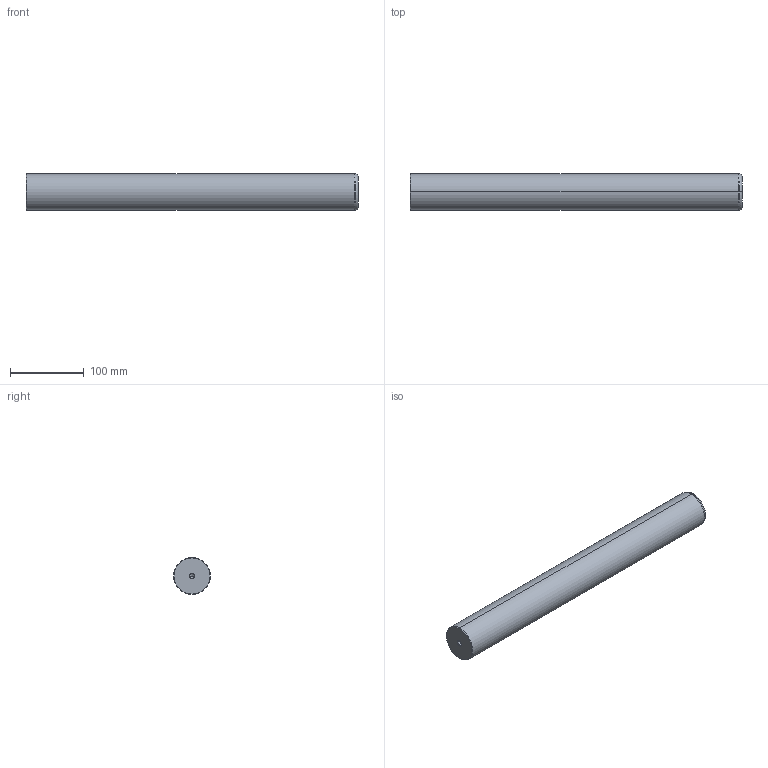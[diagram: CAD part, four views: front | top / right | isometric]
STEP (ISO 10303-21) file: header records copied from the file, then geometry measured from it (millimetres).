
FILE_DESCRIPTION(('CATIA V5 STEP Exchange'),'2;1');
FILE_NAME('C:\Users\Utente\Desktop\IO LAVORO\3D X SITO CF\X SITO\720\720-50x450.stp','2020-12-30T21:37:27+00:00',('none'),('none'),'CATIA Version 5 Release 20 GA (IN-10)','CATIA V5 STEP AP203','none');
FILE_SCHEMA(('CONFIG_CONTROL_DESIGN'));
Length unit declared in the file: millimetre
Products named in the file (1): 720-50x450
Bounding box: 450 x 50 x 50 mm (x, y, z)
Volume: 881028.1 mm3; surface area: 75205.5 mm2
Topology: 1 solids, 1 shells, 22 faces, 62 edges, 40 vertices
Faces by surface type: cone 12, cylinder 6, plane 2, torus 2
Entity records: 806 total; most frequent: CARTESIAN_POINT 229, ORIENTED_EDGE 116, DIRECTION 93, EDGE_CURVE 58, AXIS2_PLACEMENT_3D 54, VERTEX_POINT 40, CIRCLE 31, EDGE_LOOP 24
